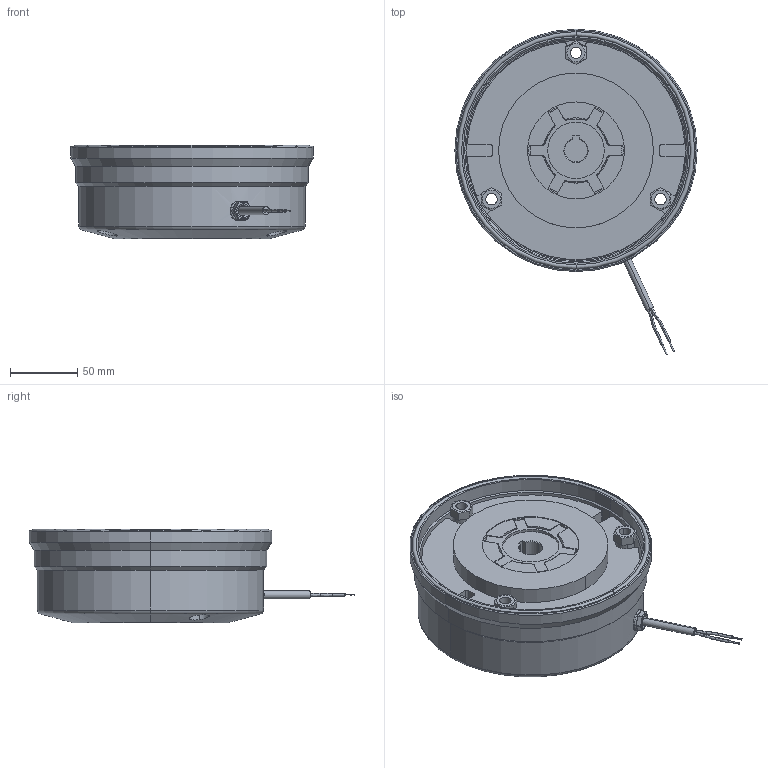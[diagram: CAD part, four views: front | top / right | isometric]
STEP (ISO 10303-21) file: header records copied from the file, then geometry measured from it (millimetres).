
FILE_DESCRIPTION (( 'STEP AP214' ), '1' );
FILE_NAME ('dr_bk_0628_mu.STEP', '2021-11-08T14:04:10', ( '' ), ( '' ), 'SwSTEP 2.0', 'SolidWorks 2019', '' );
FILE_SCHEMA (( 'AUTOMOTIVE_DESIGN' ));
Length unit declared in the file: millimetre
Products named in the file (8): 10068630_000; 10068433_000; 10068632_000; dr_bk_0628_mu; 10068430_000; 10068432_000; 10068633_000; 10068431_000
Assembly tree (9 placements, depth 2):
  dr_bk_0628_mu
    10068630_000
    10068430_000  x3
    10068431_000
    10068632_000
    10068432_000
    10068433_000
    10068633_000
Bounding box: 180 x 241.68 x 69.4 mm (x, y, z)
Volume: 1293380 mm3; surface area: 206044.1 mm2
Topology: 11 solids, 11 shells, 431 faces, 1057 edges, 664 vertices
Faces by surface type: cylinder 197, plane 147, cone 44, torus 25, bspline 12, sphere 6
Entity records: 15310 total; most frequent: CARTESIAN_POINT 2838, DIRECTION 2180, ORIENTED_EDGE 1942, EDGE_CURVE 971, AXIS2_PLACEMENT_3D 871, VERTEX_POINT 612, CIRCLE 474, VECTOR 438
